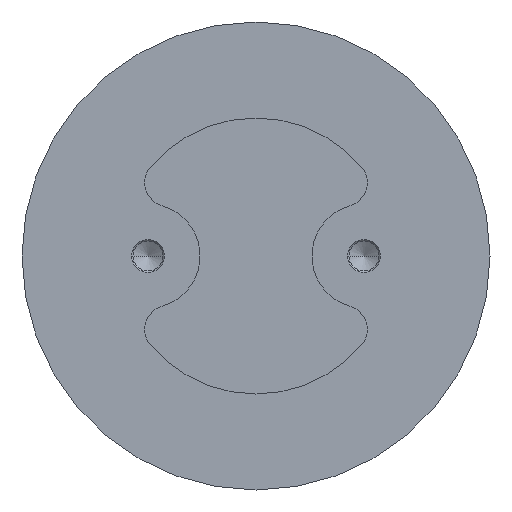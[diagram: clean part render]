
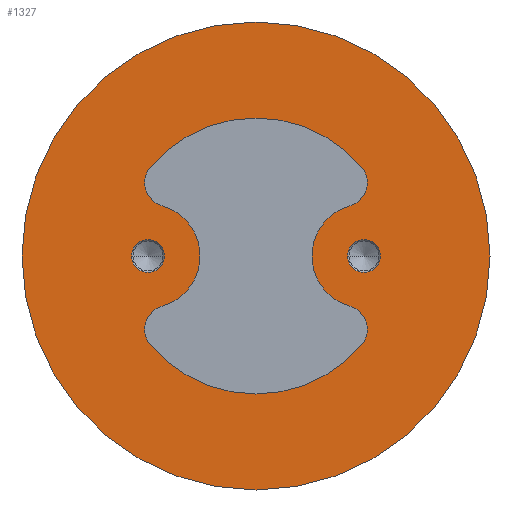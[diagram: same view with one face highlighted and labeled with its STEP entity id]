
A CAD part, front view. The second image highlights one B-rep face of the part: STEP entity #1327.
In plain terms, the highlighted planar face has unit normal (0, -1, 0).
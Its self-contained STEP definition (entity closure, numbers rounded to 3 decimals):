
#354=CARTESIAN_POINT('',(0.,-32.5,0.));
#355=DIRECTION('',(0.,1.,0.));
#356=DIRECTION('',(1.,0.,0.));
#357=AXIS2_PLACEMENT_3D('',#354,#355,#356);
#359=CARTESIAN_POINT('',(0.,-32.5,0.));
#360=DIRECTION('',(0.,-1.,0.));
#361=DIRECTION('',(1.,0.,0.));
#362=AXIS2_PLACEMENT_3D('',#359,#360,#361);
#364=CARTESIAN_POINT('',(18.,-32.5,0.));
#365=DIRECTION('',(0.,-1.,0.));
#366=DIRECTION('',(1.,0.,0.));
#367=AXIS2_PLACEMENT_3D('',#364,#365,#366);
#369=CARTESIAN_POINT('',(18.,-32.5,0.));
#370=DIRECTION('',(0.,-1.,0.));
#371=DIRECTION('',(-1.,0.,0.));
#372=AXIS2_PLACEMENT_3D('',#369,#370,#371);
#374=CARTESIAN_POINT('',(-18.,-32.5,0.));
#375=DIRECTION('',(0.,1.,0.));
#376=DIRECTION('',(-1.,0.,0.));
#377=AXIS2_PLACEMENT_3D('',#374,#375,#376);
#379=CARTESIAN_POINT('',(-18.,-32.5,0.));
#380=DIRECTION('',(0.,1.,0.));
#381=DIRECTION('',(1.,0.,0.));
#382=AXIS2_PLACEMENT_3D('',#379,#380,#381);
#384=CARTESIAN_POINT('',(14.555,-32.5,-12.213));
#385=DIRECTION('',(0.,-1.,0.));
#386=DIRECTION('',(0.766,0.,-0.643));
#387=AXIS2_PLACEMENT_3D('',#384,#385,#386);
#389=CARTESIAN_POINT('',(18.001,-32.5,0.));
#390=DIRECTION('',(0.,-1.,0.));
#391=DIRECTION('',(-0.272,0.,0.962));
#392=AXIS2_PLACEMENT_3D('',#389,#390,#391);
#394=CARTESIAN_POINT('',(14.555,-32.5,12.213));
#395=DIRECTION('',(0.,-1.,0.));
#396=DIRECTION('',(0.272,0.,-0.962));
#397=AXIS2_PLACEMENT_3D('',#394,#395,#396);
#399=CARTESIAN_POINT('',(0.,-32.5,0.));
#400=DIRECTION('',(0.,-1.,0.));
#401=DIRECTION('',(0.766,0.,0.643));
#402=AXIS2_PLACEMENT_3D('',#399,#400,#401);
#404=CARTESIAN_POINT('',(-14.555,-32.5,12.213));
#405=DIRECTION('',(0.,-1.,0.));
#406=DIRECTION('',(-0.766,0.,0.643));
#407=AXIS2_PLACEMENT_3D('',#404,#405,#406);
#409=CARTESIAN_POINT('',(-18.001,-32.5,0.));
#410=DIRECTION('',(0.,-1.,0.));
#411=DIRECTION('',(0.272,0.,-0.962));
#412=AXIS2_PLACEMENT_3D('',#409,#410,#411);
#414=CARTESIAN_POINT('',(-14.555,-32.5,-12.213));
#415=DIRECTION('',(0.,-1.,0.));
#416=DIRECTION('',(-0.272,0.,0.962));
#417=AXIS2_PLACEMENT_3D('',#414,#415,#416);
#419=CARTESIAN_POINT('',(0.,-32.5,0.));
#420=DIRECTION('',(0.,-1.,0.));
#421=DIRECTION('',(-0.766,0.,-0.643));
#422=AXIS2_PLACEMENT_3D('',#419,#420,#421);
#588=CARTESIAN_POINT('',(39.,-32.5,0.));
#590=VERTEX_POINT('',#588);
#596=CARTESIAN_POINT('',(-39.,-32.5,0.));
#598=VERTEX_POINT('',#596);
#646=CARTESIAN_POINT('',(20.75,-32.5,0.));
#647=VERTEX_POINT('',#646);
#648=CARTESIAN_POINT('',(15.25,-32.5,0.));
#649=VERTEX_POINT('',#648);
#660=CARTESIAN_POINT('',(-20.75,-32.5,0.));
#661=VERTEX_POINT('',#660);
#662=CARTESIAN_POINT('',(-15.25,-32.5,0.));
#663=VERTEX_POINT('',#662);
#720=CARTESIAN_POINT('',(17.619,-32.5,-14.784));
#721=CARTESIAN_POINT('',(15.641,-32.5,-8.363));
#722=VERTEX_POINT('',#720);
#723=VERTEX_POINT('',#721);
#724=CARTESIAN_POINT('',(15.641,-32.5,8.363));
#725=VERTEX_POINT('',#724);
#726=CARTESIAN_POINT('',(17.619,-32.5,14.784));
#727=VERTEX_POINT('',#726);
#728=CARTESIAN_POINT('',(-17.619,-32.5,14.784));
#729=VERTEX_POINT('',#728);
#730=CARTESIAN_POINT('',(-15.641,-32.5,8.363));
#731=VERTEX_POINT('',#730);
#732=CARTESIAN_POINT('',(-15.641,-32.5,-8.363));
#733=VERTEX_POINT('',#732);
#734=CARTESIAN_POINT('',(-17.619,-32.5,-14.784));
#735=VERTEX_POINT('',#734);
#1288=CARTESIAN_POINT('',(0.,-32.5,0.));
#1289=DIRECTION('',(0.,-1.,0.));
#1290=DIRECTION('',(-1.,0.,0.));
#1291=AXIS2_PLACEMENT_3D('',#1288,#1289,#1290);
#1292=PLANE('166',#1291);
#1293=ORIENTED_EDGE('203',*,*,#1270,.T.);
#1294=ORIENTED_EDGE('169',*,*,#1281,.F.);
#1295=EDGE_LOOP('166',(#1293,#1294));
#1296=FACE_OUTER_BOUND('166',#1295,.F.);
#1298=ORIENTED_EDGE('440',*,*,#1297,.T.);
#1300=ORIENTED_EDGE('441',*,*,#1299,.T.);
#1301=EDGE_LOOP('166',(#1298,#1300));
#1302=FACE_BOUND('166',#1301,.F.);
#1304=ORIENTED_EDGE('448',*,*,#1303,.F.);
#1306=ORIENTED_EDGE('449',*,*,#1305,.F.);
#1307=EDGE_LOOP('166',(#1304,#1306));
#1308=FACE_BOUND('166',#1307,.F.);
#1310=ORIENTED_EDGE('585',*,*,#1309,.T.);
#1312=ORIENTED_EDGE('586',*,*,#1311,.F.);
#1314=ORIENTED_EDGE('587',*,*,#1313,.T.);
#1316=ORIENTED_EDGE('588',*,*,#1315,.T.);
#1318=ORIENTED_EDGE('589',*,*,#1317,.T.);
#1320=ORIENTED_EDGE('590',*,*,#1319,.F.);
#1322=ORIENTED_EDGE('591',*,*,#1321,.T.);
#1324=ORIENTED_EDGE('592',*,*,#1323,.T.);
#1325=EDGE_LOOP('166',(#1310,#1312,#1314,#1316,#1318,#1320,#1322,#1324));
#1326=FACE_BOUND('166',#1325,.F.);
#1327=ADVANCED_FACE('166',(#1296,#1302,#1308,#1326),#1292,.T.);
#358=CIRCLE('203',#357,39.);
#363=CIRCLE('169',#362,39.);
#368=CIRCLE('440',#367,2.75);
#373=CIRCLE('441',#372,2.75);
#378=CIRCLE('448',#377,2.75);
#383=CIRCLE('449',#382,2.75);
#388=CIRCLE('585',#387,4.);
#393=CIRCLE('586',#392,8.69);
#398=CIRCLE('587',#397,4.);
#403=CIRCLE('588',#402,23.);
#408=CIRCLE('589',#407,4.);
#413=CIRCLE('590',#412,8.69);
#418=CIRCLE('591',#417,4.);
#423=CIRCLE('592',#422,23.);
#1270=EDGE_CURVE('203',#590,#598,#358,.T.);
#1281=EDGE_CURVE('169',#590,#598,#363,.T.);
#1297=EDGE_CURVE('440',#647,#649,#368,.T.);
#1299=EDGE_CURVE('441',#649,#647,#373,.T.);
#1303=EDGE_CURVE('448',#661,#663,#378,.T.);
#1305=EDGE_CURVE('449',#663,#661,#383,.T.);
#1309=EDGE_CURVE('585',#722,#723,#388,.T.);
#1311=EDGE_CURVE('586',#725,#723,#393,.T.);
#1313=EDGE_CURVE('587',#725,#727,#398,.T.);
#1315=EDGE_CURVE('588',#727,#729,#403,.T.);
#1317=EDGE_CURVE('589',#729,#731,#408,.T.);
#1319=EDGE_CURVE('590',#733,#731,#413,.T.);
#1321=EDGE_CURVE('591',#733,#735,#418,.T.);
#1323=EDGE_CURVE('592',#735,#722,#423,.T.);
